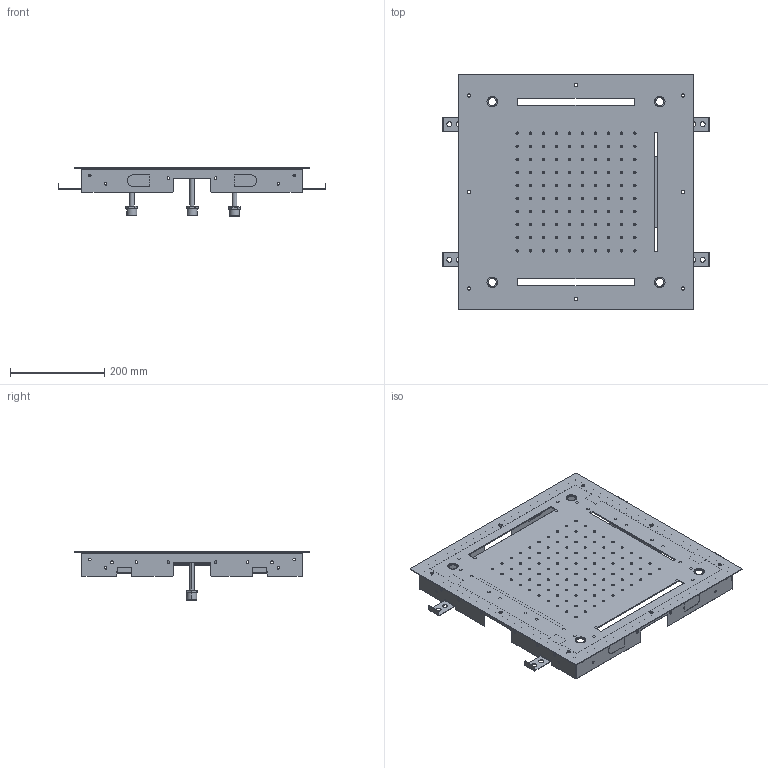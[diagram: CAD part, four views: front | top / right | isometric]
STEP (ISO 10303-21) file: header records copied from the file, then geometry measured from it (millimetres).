
FILE_DESCRIPTION (( 'STEP AP203' ), '1' );
FILE_NAME ('PIA21G.STEP', '2019-06-17T14:59:30', ( '' ), ( '' ), 'SwSTEP 2.0', 'SolidWorks 2014', '' );
FILE_SCHEMA (( 'CONFIG_CONTROL_DESIGN' ));
Length unit declared in the file: millimetre
Products named in the file (12): S-00180_2; 21313_3; 23010; TUBONEB_GEDA UNICO; 23011; PIA21G; 23025; 23006_1; M-1181_1; GrLED_1; ATT MEZZO POLL; 23009
Assembly tree (25 placements, depth 3):
  PIA21G
    21313_3
    S-00180_2  x6
    23006_1
    GrLED_1  x2
      S-00180_2
    M-1181_1
    23011
    23009  x2
    23010  x2
    23025
    ATT MEZZO POLL  x3
    TUBONEB_GEDA UNICO  x3
Bounding box: 568 x 500 x 102.34 mm (x, y, z)
Volume: 791414.1 mm3; surface area: 1339322.8 mm2
Topology: 25 solids, 25 shells, 2290 faces, 6065 edges, 3761 vertices
Faces by surface type: cylinder 1048, bspline 615, plane 543, cone 84
Entity records: 44153 total; most frequent: CARTESIAN_POINT 10081, DIRECTION 6985, ORIENTED_EDGE 6618, EDGE_CURVE 3309, AXIS2_PLACEMENT_3D 2692, VERTEX_POINT 2152, EDGE_LOOP 1743, LINE 1601
